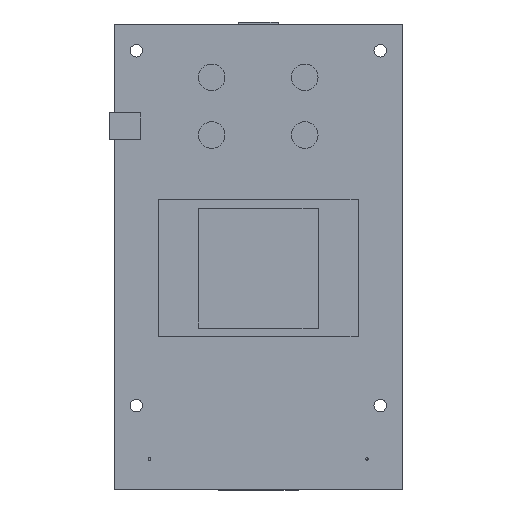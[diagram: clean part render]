
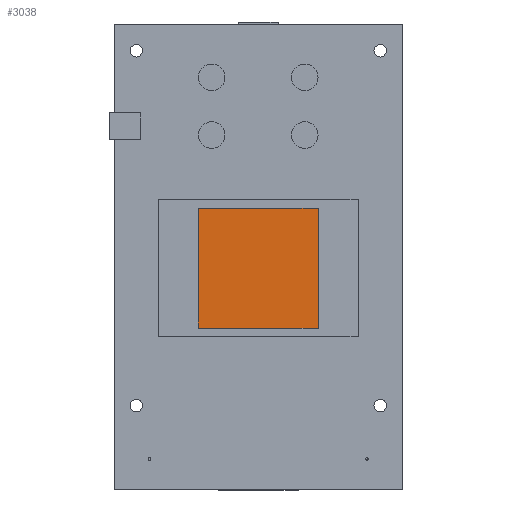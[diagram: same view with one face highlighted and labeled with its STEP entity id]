
A CAD part, top view. The second image highlights one B-rep face of the part: STEP entity #3038.
In plain terms, the highlighted planar face has unit normal (0, 0, 1).
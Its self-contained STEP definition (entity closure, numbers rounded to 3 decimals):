
#2724 = VERTEX_POINT('',#2725);
#2725 = CARTESIAN_POINT('',(19.,36.5,4.4));
#2732 = PLANE('',#2733);
#2733 = AXIS2_PLACEMENT_3D('',#2734,#2735,#2736);
#2734 = CARTESIAN_POINT('',(19.,36.5,3.6));
#2735 = DIRECTION('',(1.,0.,0.));
#2736 = DIRECTION('',(0.,0.,1.));
#2744 = PLANE('',#2745);
#2745 = AXIS2_PLACEMENT_3D('',#2746,#2747,#2748);
#2746 = CARTESIAN_POINT('',(19.,36.5,3.6));
#2747 = DIRECTION('',(0.,1.,0.));
#2748 = DIRECTION('',(0.,0.,1.));
#2785 = VERTEX_POINT('',#2786);
#2786 = CARTESIAN_POINT('',(19.,63.5,4.4));
#2800 = PLANE('',#2801);
#2801 = AXIS2_PLACEMENT_3D('',#2802,#2803,#2804);
#2802 = CARTESIAN_POINT('',(19.,63.5,3.6));
#2803 = DIRECTION('',(0.,1.,0.));
#2804 = DIRECTION('',(0.,0.,1.));
#2812 = EDGE_CURVE('',#2724,#2785,#2813,.T.);
#2813 = SURFACE_CURVE('',#2814,(#2818,#2825),.PCURVE_S1.);
#2814 = LINE('',#2815,#2816);
#2815 = CARTESIAN_POINT('',(19.,36.5,4.4));
#2816 = VECTOR('',#2817,1.);
#2817 = DIRECTION('',(0.,1.,0.));
#2818 = PCURVE('',#2732,#2819);
#2819 = DEFINITIONAL_REPRESENTATION('',(#2820),#2824);
#2820 = LINE('',#2821,#2822);
#2821 = CARTESIAN_POINT('',(0.8,0.));
#2822 = VECTOR('',#2823,1.);
#2823 = DIRECTION('',(0.,-1.));
#2824 = ( GEOMETRIC_REPRESENTATION_CONTEXT(2) 
PARAMETRIC_REPRESENTATION_CONTEXT() REPRESENTATION_CONTEXT('2D SPACE',''
  ) );
#2825 = PCURVE('',#2826,#2831);
#2826 = PLANE('',#2827);
#2827 = AXIS2_PLACEMENT_3D('',#2828,#2829,#2830);
#2828 = CARTESIAN_POINT('',(19.,36.5,4.4));
#2829 = DIRECTION('',(0.,0.,1.));
#2830 = DIRECTION('',(1.,0.,0.));
#2831 = DEFINITIONAL_REPRESENTATION('',(#2832),#2836);
#2832 = LINE('',#2833,#2834);
#2833 = CARTESIAN_POINT('',(0.,0.));
#2834 = VECTOR('',#2835,1.);
#2835 = DIRECTION('',(0.,1.));
#2836 = ( GEOMETRIC_REPRESENTATION_CONTEXT(2) 
PARAMETRIC_REPRESENTATION_CONTEXT() REPRESENTATION_CONTEXT('2D SPACE',''
  ) );
#2844 = VERTEX_POINT('',#2845);
#2845 = CARTESIAN_POINT('',(46.,36.5,4.4));
#2852 = PLANE('',#2853);
#2853 = AXIS2_PLACEMENT_3D('',#2854,#2855,#2856);
#2854 = CARTESIAN_POINT('',(46.,36.5,3.6));
#2855 = DIRECTION('',(1.,0.,0.));
#2856 = DIRECTION('',(0.,0.,1.));
#2895 = VERTEX_POINT('',#2896);
#2896 = CARTESIAN_POINT('',(46.,63.5,4.4));
#2917 = EDGE_CURVE('',#2844,#2895,#2918,.T.);
#2918 = SURFACE_CURVE('',#2919,(#2923,#2930),.PCURVE_S1.);
#2919 = LINE('',#2920,#2921);
#2920 = CARTESIAN_POINT('',(46.,36.5,4.4));
#2921 = VECTOR('',#2922,1.);
#2922 = DIRECTION('',(0.,1.,0.));
#2923 = PCURVE('',#2852,#2924);
#2924 = DEFINITIONAL_REPRESENTATION('',(#2925),#2929);
#2925 = LINE('',#2926,#2927);
#2926 = CARTESIAN_POINT('',(0.8,0.));
#2927 = VECTOR('',#2928,1.);
#2928 = DIRECTION('',(0.,-1.));
#2929 = ( GEOMETRIC_REPRESENTATION_CONTEXT(2) 
PARAMETRIC_REPRESENTATION_CONTEXT() REPRESENTATION_CONTEXT('2D SPACE',''
  ) );
#2930 = PCURVE('',#2826,#2931);
#2931 = DEFINITIONAL_REPRESENTATION('',(#2932),#2936);
#2932 = LINE('',#2933,#2934);
#2933 = CARTESIAN_POINT('',(27.,0.));
#2934 = VECTOR('',#2935,1.);
#2935 = DIRECTION('',(0.,1.));
#2936 = ( GEOMETRIC_REPRESENTATION_CONTEXT(2) 
PARAMETRIC_REPRESENTATION_CONTEXT() REPRESENTATION_CONTEXT('2D SPACE',''
  ) );
#2963 = EDGE_CURVE('',#2724,#2844,#2964,.T.);
#2964 = SURFACE_CURVE('',#2965,(#2969,#2976),.PCURVE_S1.);
#2965 = LINE('',#2966,#2967);
#2966 = CARTESIAN_POINT('',(19.,36.5,4.4));
#2967 = VECTOR('',#2968,1.);
#2968 = DIRECTION('',(1.,0.,0.));
#2969 = PCURVE('',#2744,#2970);
#2970 = DEFINITIONAL_REPRESENTATION('',(#2971),#2975);
#2971 = LINE('',#2972,#2973);
#2972 = CARTESIAN_POINT('',(0.8,0.));
#2973 = VECTOR('',#2974,1.);
#2974 = DIRECTION('',(0.,1.));
#2975 = ( GEOMETRIC_REPRESENTATION_CONTEXT(2) 
PARAMETRIC_REPRESENTATION_CONTEXT() REPRESENTATION_CONTEXT('2D SPACE',''
  ) );
#2976 = PCURVE('',#2826,#2977);
#2977 = DEFINITIONAL_REPRESENTATION('',(#2978),#2982);
#2978 = LINE('',#2979,#2980);
#2979 = CARTESIAN_POINT('',(0.,0.));
#2980 = VECTOR('',#2981,1.);
#2981 = DIRECTION('',(1.,0.));
#2982 = ( GEOMETRIC_REPRESENTATION_CONTEXT(2) 
PARAMETRIC_REPRESENTATION_CONTEXT() REPRESENTATION_CONTEXT('2D SPACE',''
  ) );
#3010 = EDGE_CURVE('',#2785,#2895,#3011,.T.);
#3011 = SURFACE_CURVE('',#3012,(#3016,#3023),.PCURVE_S1.);
#3012 = LINE('',#3013,#3014);
#3013 = CARTESIAN_POINT('',(19.,63.5,4.4));
#3014 = VECTOR('',#3015,1.);
#3015 = DIRECTION('',(1.,0.,0.));
#3016 = PCURVE('',#2800,#3017);
#3017 = DEFINITIONAL_REPRESENTATION('',(#3018),#3022);
#3018 = LINE('',#3019,#3020);
#3019 = CARTESIAN_POINT('',(0.8,0.));
#3020 = VECTOR('',#3021,1.);
#3021 = DIRECTION('',(0.,1.));
#3022 = ( GEOMETRIC_REPRESENTATION_CONTEXT(2) 
PARAMETRIC_REPRESENTATION_CONTEXT() REPRESENTATION_CONTEXT('2D SPACE',''
  ) );
#3023 = PCURVE('',#2826,#3024);
#3024 = DEFINITIONAL_REPRESENTATION('',(#3025),#3029);
#3025 = LINE('',#3026,#3027);
#3026 = CARTESIAN_POINT('',(0.,27.));
#3027 = VECTOR('',#3028,1.);
#3028 = DIRECTION('',(1.,0.));
#3029 = ( GEOMETRIC_REPRESENTATION_CONTEXT(2) 
PARAMETRIC_REPRESENTATION_CONTEXT() REPRESENTATION_CONTEXT('2D SPACE',''
  ) );
#3038 = ADVANCED_FACE('',(#3039),#2826,.T.);
#3039 = FACE_BOUND('',#3040,.T.);
#3040 = EDGE_LOOP('',(#3041,#3042,#3043,#3044));
#3041 = ORIENTED_EDGE('',*,*,#2812,.F.);
#3042 = ORIENTED_EDGE('',*,*,#2963,.T.);
#3043 = ORIENTED_EDGE('',*,*,#2917,.T.);
#3044 = ORIENTED_EDGE('',*,*,#3010,.F.);
